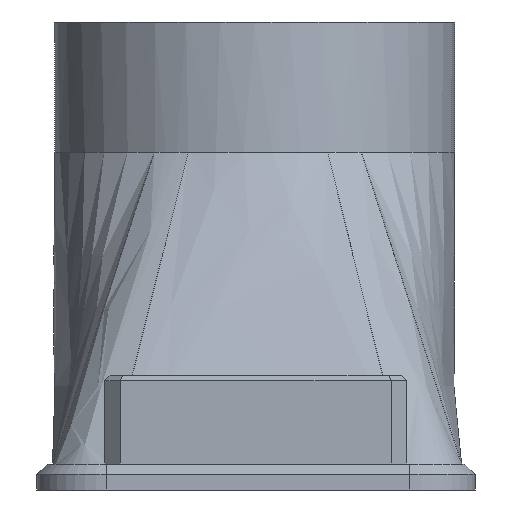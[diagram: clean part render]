
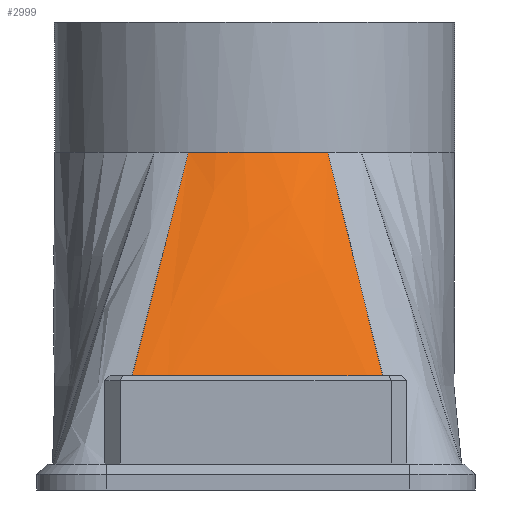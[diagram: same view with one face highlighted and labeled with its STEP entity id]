
A CAD part, left-side view. The second image highlights one B-rep face of the part: STEP entity #2999.
In plain terms, the highlighted free-form (B-spline) face has degree [7, 1] with [8, 2] control points.
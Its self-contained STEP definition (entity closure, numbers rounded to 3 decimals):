
#137 = PLANE('',#138);
#138 = AXIS2_PLACEMENT_3D('',#139,#140,#141);
#139 = CARTESIAN_POINT('',(16.088,12.387,5.));
#140 = DIRECTION('',(0.,0.,1.));
#141 = DIRECTION('',(1.,0.,0.));
#1138 = VERTEX_POINT('',#1139);
#1139 = CARTESIAN_POINT('',(-60.45,-17.713,5.));
#1154 = B_SPLINE_SURFACE_WITH_KNOTS('',8,1,(
    (#1155,#1156)
    ,(#1157,#1158)
    ,(#1159,#1160)
    ,(#1161,#1162)
    ,(#1163,#1164)
    ,(#1165,#1166)
    ,(#1167,#1168)
    ,(#1169,#1170)
    ,(#1171,#1172
    )),.UNSPECIFIED.,.F.,.F.,.F.,(9,9),(2,2),(3.142,
    4.736),(0.,1.),.PIECEWISE_BEZIER_KNOTS.);
#1155 = CARTESIAN_POINT('',(-8.937,-2.962,65.));
#1156 = CARTESIAN_POINT('',(-60.45,-17.713,5.));
#1157 = CARTESIAN_POINT('',(-8.608,-3.803,65.));
#1158 = CARTESIAN_POINT('',(-60.45,-19.905,5.));
#1159 = CARTESIAN_POINT('',(-8.256,-4.635,65.));
#1160 = CARTESIAN_POINT('',(-59.951,-22.098,5.));
#1161 = CARTESIAN_POINT('',(-7.882,-5.458,65.));
#1162 = CARTESIAN_POINT('',(-58.952,-24.157,5.));
#1163 = CARTESIAN_POINT('',(-7.485,-6.27,65.));
#1164 = CARTESIAN_POINT('',(-57.496,-25.952,5.));
#1165 = CARTESIAN_POINT('',(-7.067,-7.071,65.));
#1166 = CARTESIAN_POINT('',(-55.668,-27.364,5.));
#1167 = CARTESIAN_POINT('',(-6.628,-7.861,65.));
#1168 = CARTESIAN_POINT('',(-53.585,-28.314,5.));
#1169 = CARTESIAN_POINT('',(-6.168,-8.639,65.));
#1170 = CARTESIAN_POINT('',(-51.382,-28.762,5.));
#1171 = CARTESIAN_POINT('',(-5.688,-9.403,65.));
#1172 = CARTESIAN_POINT('',(-49.19,-28.71,5.));
#1180 = EDGE_CURVE('',#1138,#1181,#1183,.T.);
#1181 = VERTEX_POINT('',#1182);
#1182 = CARTESIAN_POINT('',(-60.45,38.94,5.));
#1183 = SURFACE_CURVE('',#1184,(#1188,#1195),.PCURVE_S1.);
#1184 = LINE('',#1185,#1186);
#1185 = CARTESIAN_POINT('',(-60.45,-17.713,5.));
#1186 = VECTOR('',#1187,1.);
#1187 = DIRECTION('',(0.,1.,0.));
#1188 = PCURVE('',#137,#1189);
#1189 = DEFINITIONAL_REPRESENTATION('',(#1190),#1194);
#1190 = LINE('',#1191,#1192);
#1191 = CARTESIAN_POINT('',(-76.538,-30.1));
#1192 = VECTOR('',#1193,1.);
#1193 = DIRECTION('',(0.,1.));
#1194 = ( GEOMETRIC_REPRESENTATION_CONTEXT(2) 
PARAMETRIC_REPRESENTATION_CONTEXT() REPRESENTATION_CONTEXT('2D SPACE',''
  ) );
#1195 = PCURVE('',#1196,#1213);
#1196 = B_SPLINE_SURFACE_WITH_KNOTS('',7,1,(
    (#1197,#1198)
    ,(#1199,#1200)
    ,(#1201,#1202)
    ,(#1203,#1204)
    ,(#1205,#1206)
    ,(#1207,#1208)
    ,(#1209,#1210)
    ,(#1211,#1212
    )),.UNSPECIFIED.,.F.,.F.,.F.,(8,8),(2,2),(-56.653,0.),(0.,1.
    ),.PIECEWISE_BEZIER_KNOTS.);
#1197 = CARTESIAN_POINT('',(-9.43,23.802,65.));
#1198 = CARTESIAN_POINT('',(-60.45,38.94,5.));
#1199 = CARTESIAN_POINT('',(-10.72,20.116,65.));
#1200 = CARTESIAN_POINT('',(-60.45,30.847,5.));
#1201 = CARTESIAN_POINT('',(-11.574,16.276,
    65.));
#1202 = CARTESIAN_POINT('',(-60.45,22.753,5.));
#1203 = CARTESIAN_POINT('',(-11.97,12.347,
    65.));
#1204 = CARTESIAN_POINT('',(-60.45,14.66,5.));
#1205 = CARTESIAN_POINT('',(-11.897,8.392,
    65.));
#1206 = CARTESIAN_POINT('',(-60.45,6.567,5.));
#1207 = CARTESIAN_POINT('',(-11.357,4.479,65.));
#1208 = CARTESIAN_POINT('',(-60.45,-1.526,5.));
#1209 = CARTESIAN_POINT('',(-10.362,0.674,65.));
#1210 = CARTESIAN_POINT('',(-60.45,-9.62,5.));
#1211 = CARTESIAN_POINT('',(-8.937,-2.962,65.));
#1212 = CARTESIAN_POINT('',(-60.45,-17.713,5.));
#1213 = DEFINITIONAL_REPRESENTATION('',(#1214),#1218);
#1214 = LINE('',#1215,#1216);
#1215 = CARTESIAN_POINT('',(0.,1.));
#1216 = VECTOR('',#1217,1.);
#1217 = DIRECTION('',(-1.,0.));
#1218 = ( GEOMETRIC_REPRESENTATION_CONTEXT(2) 
PARAMETRIC_REPRESENTATION_CONTEXT() REPRESENTATION_CONTEXT('2D SPACE',''
  ) );
#1237 = B_SPLINE_SURFACE_WITH_KNOTS('',8,1,(
    (#1238,#1239)
    ,(#1240,#1241)
    ,(#1242,#1243)
    ,(#1244,#1245)
    ,(#1246,#1247)
    ,(#1248,#1249)
    ,(#1250,#1251)
    ,(#1252,#1253)
    ,(#1254,#1255
    )),.UNSPECIFIED.,.F.,.F.,.F.,(9,9),(2,2),(1.571,
    3.142),(0.,1.),.PIECEWISE_BEZIER_KNOTS.);
#1238 = CARTESIAN_POINT('',(-6.436,30.329,65.));
#1239 = CARTESIAN_POINT('',(-49.45,49.94,5.));
#1240 = CARTESIAN_POINT('',(-6.886,29.551,65.));
#1241 = CARTESIAN_POINT('',(-51.61,49.94,5.));
#1242 = CARTESIAN_POINT('',(-7.314,28.76,65.));
#1243 = CARTESIAN_POINT('',(-53.77,49.455,5.));
#1244 = CARTESIAN_POINT('',(-7.722,27.958,65.));
#1245 = CARTESIAN_POINT('',(-55.803,48.486,5.));
#1246 = CARTESIAN_POINT('',(-8.107,27.146,65.));
#1247 = CARTESIAN_POINT('',(-57.582,47.072,5.));
#1248 = CARTESIAN_POINT('',(-8.472,26.323,65.));
#1249 = CARTESIAN_POINT('',(-58.996,45.293,5.));
#1250 = CARTESIAN_POINT('',(-8.814,25.491,65.));
#1251 = CARTESIAN_POINT('',(-59.965,43.26,5.));
#1252 = CARTESIAN_POINT('',(-9.133,24.651,65.));
#1253 = CARTESIAN_POINT('',(-60.45,41.1,5.));
#1254 = CARTESIAN_POINT('',(-9.43,23.802,65.));
#1255 = CARTESIAN_POINT('',(-60.45,38.94,5.));
#2707 = CYLINDRICAL_SURFACE('',#2708,38.5);
#2708 = AXIS2_PLACEMENT_3D('',#2709,#2710,#2711);
#2709 = CARTESIAN_POINT('',(26.909,11.084,65.));
#2710 = DIRECTION('',(-0.,-0.,-1.));
#2711 = DIRECTION('',(1.,0.,0.));
#2908 = VERTEX_POINT('',#2909);
#2909 = CARTESIAN_POINT('',(-9.43,23.802,65.));
#2930 = EDGE_CURVE('',#2908,#1181,#2931,.T.);
#2931 = SURFACE_CURVE('',#2932,(#2935,#2942),.PCURVE_S1.);
#2932 = B_SPLINE_CURVE_WITH_KNOTS('',1,(#2933,#2934),.UNSPECIFIED.,.F.,
  .F.,(2,2),(0.,1.),.PIECEWISE_BEZIER_KNOTS.);
#2933 = CARTESIAN_POINT('',(-9.43,23.802,65.));
#2934 = CARTESIAN_POINT('',(-60.45,38.94,5.));
#2935 = PCURVE('',#1237,#2936);
#2936 = DEFINITIONAL_REPRESENTATION('',(#2937),#2941);
#2937 = LINE('',#2938,#2939);
#2938 = CARTESIAN_POINT('',(3.142,0.));
#2939 = VECTOR('',#2940,1.);
#2940 = DIRECTION('',(0.,1.));
#2941 = ( GEOMETRIC_REPRESENTATION_CONTEXT(2) 
PARAMETRIC_REPRESENTATION_CONTEXT() REPRESENTATION_CONTEXT('2D SPACE',''
  ) );
#2942 = PCURVE('',#1196,#2943);
#2943 = DEFINITIONAL_REPRESENTATION('',(#2944),#2948);
#2944 = LINE('',#2945,#2946);
#2945 = CARTESIAN_POINT('',(-56.653,0.));
#2946 = VECTOR('',#2947,1.);
#2947 = DIRECTION('',(0.,1.));
#2948 = ( GEOMETRIC_REPRESENTATION_CONTEXT(2) 
PARAMETRIC_REPRESENTATION_CONTEXT() REPRESENTATION_CONTEXT('2D SPACE',''
  ) );
#2999 = ADVANCED_FACE('',(#3000),#1196,.F.);
#3000 = FACE_BOUND('',#3001,.F.);
#3001 = EDGE_LOOP('',(#3002,#3025,#3045,#3046));
#3002 = ORIENTED_EDGE('',*,*,#3003,.T.);
#3003 = EDGE_CURVE('',#2908,#3004,#3006,.T.);
#3004 = VERTEX_POINT('',#3005);
#3005 = CARTESIAN_POINT('',(-8.937,-2.962,65.));
#3006 = SURFACE_CURVE('',#3007,(#3012,#3018),.PCURVE_S1.);
#3007 = CIRCLE('',#3008,38.5);
#3008 = AXIS2_PLACEMENT_3D('',#3009,#3010,#3011);
#3009 = CARTESIAN_POINT('',(26.909,11.084,65.));
#3010 = DIRECTION('',(0.,0.,1.));
#3011 = DIRECTION('',(1.,0.,0.));
#3012 = PCURVE('',#1196,#3013);
#3013 = DEFINITIONAL_REPRESENTATION('',(#3014),#3017);
#3014 = B_SPLINE_CURVE_WITH_KNOTS('',1,(#3015,#3016),.UNSPECIFIED.,.F.,
  .F.,(2,2),(2.805,3.515),.PIECEWISE_BEZIER_KNOTS.);
#3015 = CARTESIAN_POINT('',(-56.653,0.));
#3016 = CARTESIAN_POINT('',(0.,0.));
#3017 = ( GEOMETRIC_REPRESENTATION_CONTEXT(2) 
PARAMETRIC_REPRESENTATION_CONTEXT() REPRESENTATION_CONTEXT('2D SPACE',''
  ) );
#3018 = PCURVE('',#2707,#3019);
#3019 = DEFINITIONAL_REPRESENTATION('',(#3020),#3024);
#3020 = LINE('',#3021,#3022);
#3021 = CARTESIAN_POINT('',(-0.,0.));
#3022 = VECTOR('',#3023,1.);
#3023 = DIRECTION('',(-1.,0.));
#3024 = ( GEOMETRIC_REPRESENTATION_CONTEXT(2) 
PARAMETRIC_REPRESENTATION_CONTEXT() REPRESENTATION_CONTEXT('2D SPACE',''
  ) );
#3025 = ORIENTED_EDGE('',*,*,#3026,.T.);
#3026 = EDGE_CURVE('',#3004,#1138,#3027,.T.);
#3027 = SURFACE_CURVE('',#3028,(#3031,#3038),.PCURVE_S1.);
#3028 = B_SPLINE_CURVE_WITH_KNOTS('',1,(#3029,#3030),.UNSPECIFIED.,.F.,
  .F.,(2,2),(0.,1.),.PIECEWISE_BEZIER_KNOTS.);
#3029 = CARTESIAN_POINT('',(-8.937,-2.962,65.));
#3030 = CARTESIAN_POINT('',(-60.45,-17.713,5.));
#3031 = PCURVE('',#1196,#3032);
#3032 = DEFINITIONAL_REPRESENTATION('',(#3033),#3037);
#3033 = LINE('',#3034,#3035);
#3034 = CARTESIAN_POINT('',(0.,0.));
#3035 = VECTOR('',#3036,1.);
#3036 = DIRECTION('',(0.,1.));
#3037 = ( GEOMETRIC_REPRESENTATION_CONTEXT(2) 
PARAMETRIC_REPRESENTATION_CONTEXT() REPRESENTATION_CONTEXT('2D SPACE',''
  ) );
#3038 = PCURVE('',#1154,#3039);
#3039 = DEFINITIONAL_REPRESENTATION('',(#3040),#3044);
#3040 = LINE('',#3041,#3042);
#3041 = CARTESIAN_POINT('',(3.142,0.));
#3042 = VECTOR('',#3043,1.);
#3043 = DIRECTION('',(0.,1.));
#3044 = ( GEOMETRIC_REPRESENTATION_CONTEXT(2) 
PARAMETRIC_REPRESENTATION_CONTEXT() REPRESENTATION_CONTEXT('2D SPACE',''
  ) );
#3045 = ORIENTED_EDGE('',*,*,#1180,.T.);
#3046 = ORIENTED_EDGE('',*,*,#2930,.F.);
